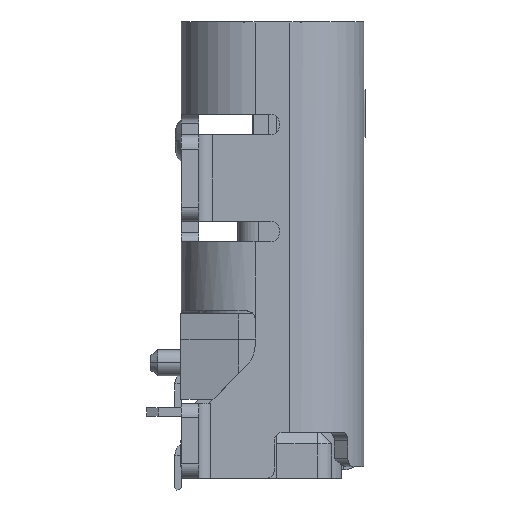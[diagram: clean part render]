
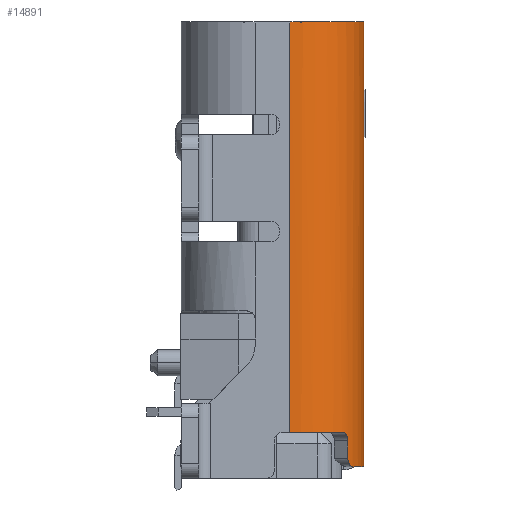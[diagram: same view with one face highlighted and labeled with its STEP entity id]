
A CAD part, left-side view. The second image highlights one B-rep face of the part: STEP entity #14891.
In plain terms, the highlighted cylindrical face has radius 1.28 mm (diameter 2.56 mm), a partial arc.
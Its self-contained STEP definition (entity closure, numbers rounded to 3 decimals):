
#473 = EDGE_CURVE ( 'NONE', #5729, #39151, #35286, .T. ) ;
#1864 = DIRECTION ( 'NONE',  ( 0., 0., 1. ) ) ;
#2338 = B_SPLINE_CURVE_WITH_KNOTS ( 'NONE', 3,
 ( #50679, #73452, #22294, #45088, #4377, #4019, #9627, #60796 ),
 .UNSPECIFIED., .F., .F.,
 ( 4, 1, 1, 1, 1, 4 ),
 ( 0., 0.2, 0.4, 0.6, 0.8, 1. ),
 .UNSPECIFIED. ) ;
#2487 = AXIS2_PLACEMENT_3D ( 'NONE', #4233, #33015, #10215 ) ;
#2724 = AXIS2_PLACEMENT_3D ( 'NONE', #68106, #4997, #62908 ) ;
#4019 = CARTESIAN_POINT ( 'NONE',  ( -4.06, -1.239, -2.005 ) ) ;
#4233 = CARTESIAN_POINT ( 'NONE',  ( -3.19, -0.3, -2.6 ) ) ;
#4245 = ORIENTED_EDGE ( 'NONE', *, *, #52091, .T. ) ;
#4376 = CARTESIAN_POINT ( 'NONE',  ( -3.19, -1.58, 5.1 ) ) ;
#4377 = CARTESIAN_POINT ( 'NONE',  ( -4.028, -1.267, -2.027 ) ) ;
#4997 = DIRECTION ( 'NONE',  ( 0., 0., 1. ) ) ;
#5729 = VERTEX_POINT ( 'NONE', #6262 ) ;
#6262 = CARTESIAN_POINT ( 'NONE',  ( -3.982, -1.306, -2.15 ) ) ;
#6611 = VERTEX_POINT ( 'NONE', #6618 ) ;
#6618 = CARTESIAN_POINT ( 'NONE',  ( -3.19, -1.58, -2.6 ) ) ;
#7014 = ORIENTED_EDGE ( 'NONE', *, *, #473, .T. ) ;
#8853 = CARTESIAN_POINT ( 'NONE',  ( -3.934, -1.342, -2.573 ) ) ;
#9627 = CARTESIAN_POINT ( 'NONE',  ( -4.083, -1.217, -2. ) ) ;
#10140 = EDGE_LOOP ( 'NONE', ( #20040, #49941, #4245, #39683, #64741, #7014, #55324, #32998 ) ) ;
#10142 = AXIS2_PLACEMENT_3D ( 'NONE', #20547, #60523, #38110 ) ;
#10215 = DIRECTION ( 'NONE',  ( 0., -1., 0. ) ) ;
#13601 = DIRECTION ( 'NONE',  ( 0., 0., -1. ) ) ;
#14891 = ADVANCED_FACE ( 'NONE', ( #62537 ), #39001, .T. ) ;
#17894 = CARTESIAN_POINT ( 'NONE',  ( -4.47, -0.3, 5.1 ) ) ;
#19319 = CARTESIAN_POINT ( 'NONE',  ( -3.982, -1.306, -2.466 ) ) ;
#20040 = ORIENTED_EDGE ( 'NONE', *, *, #62864, .T. ) ;
#20057 = CARTESIAN_POINT ( 'NONE',  ( -3.982, -1.306, -2.45 ) ) ;
#20166 = LINE ( 'NONE', #65730, #55757 ) ;
#20525 = EDGE_CURVE ( 'NONE', #6611, #37423, #34726, .T. ) ;
#20547 = CARTESIAN_POINT ( 'NONE',  ( -3.19, -0.3, 5.1 ) ) ;
#22294 = CARTESIAN_POINT ( 'NONE',  ( -3.986, -1.303, -2.103 ) ) ;
#22492 = CIRCLE ( 'NONE', #65498, 1.28 ) ;
#22690 = CARTESIAN_POINT ( 'NONE',  ( -3.858, -1.392, -2.6 ) ) ;
#32666 = VERTEX_POINT ( 'NONE', #53175 ) ;
#32998 = ORIENTED_EDGE ( 'NONE', *, *, #20525, .F. ) ;
#33015 = DIRECTION ( 'NONE',  ( 0., 0., -1. ) ) ;
#33150 = DIRECTION ( 'NONE',  ( 0., 0., -1. ) ) ;
#33934 = B_SPLINE_CURVE_WITH_KNOTS ( 'NONE', 3,
 ( #22690, #57818, #58546, #8853, #48067, #42495, #19319, #20057 ),
 .UNSPECIFIED., .F., .F.,
 ( 4, 1, 1, 1, 1, 4 ),
 ( 0., 0.2, 0.4, 0.6, 0.8, 1. ),
 .UNSPECIFIED. ) ;
#34726 = CIRCLE ( 'NONE', #2487, 1.28 ) ;
#35286 = LINE ( 'NONE', #41985, #57901 ) ;
#36004 = VERTEX_POINT ( 'NONE', #39511 ) ;
#36083 = EDGE_CURVE ( 'NONE', #37423, #39151, #33934, .T. ) ;
#37423 = VERTEX_POINT ( 'NONE', #48444 ) ;
#37477 = VECTOR ( 'NONE', #63874, 1000. ) ;
#38110 = DIRECTION ( 'NONE',  ( -1., 0., 0. ) ) ;
#39001 = CYLINDRICAL_SURFACE ( 'NONE', #2724, 1.28 ) ;
#39045 = EDGE_CURVE ( 'NONE', #5729, #32666, #2338, .T. ) ;
#39151 = VERTEX_POINT ( 'NONE', #45444 ) ;
#39511 = CARTESIAN_POINT ( 'NONE',  ( -4.47, -0.3, -2. ) ) ;
#39683 = ORIENTED_EDGE ( 'NONE', *, *, #64238, .F. ) ;
#41205 = CIRCLE ( 'NONE', #10142, 1.28 ) ;
#41985 = CARTESIAN_POINT ( 'NONE',  ( -3.982, -1.306, -2.15 ) ) ;
#42495 = CARTESIAN_POINT ( 'NONE',  ( -3.978, -1.309, -2.497 ) ) ;
#45088 = CARTESIAN_POINT ( 'NONE',  ( -4.003, -1.289, -2.06 ) ) ;
#45444 = CARTESIAN_POINT ( 'NONE',  ( -3.982, -1.306, -2.45 ) ) ;
#45465 = EDGE_CURVE ( 'NONE', #60902, #54529, #41205, .T. ) ;
#48067 = CARTESIAN_POINT ( 'NONE',  ( -3.961, -1.322, -2.54 ) ) ;
#48444 = CARTESIAN_POINT ( 'NONE',  ( -3.858, -1.392, -2.6 ) ) ;
#49941 = ORIENTED_EDGE ( 'NONE', *, *, #45465, .F. ) ;
#50679 = CARTESIAN_POINT ( 'NONE',  ( -3.982, -1.306, -2.15 ) ) ;
#52091 = EDGE_CURVE ( 'NONE', #60902, #36004, #69069, .T. ) ;
#53175 = CARTESIAN_POINT ( 'NONE',  ( -4.094, -1.206, -2. ) ) ;
#54457 = CARTESIAN_POINT ( 'NONE',  ( -3.19, -0.3, -2. ) ) ;
#54529 = VERTEX_POINT ( 'NONE', #4376 ) ;
#55032 = CARTESIAN_POINT ( 'NONE',  ( -4.47, -0.3, 5.1 ) ) ;
#55324 = ORIENTED_EDGE ( 'NONE', *, *, #36083, .F. ) ;
#55757 = VECTOR ( 'NONE', #1864, 1000. ) ;
#57818 = CARTESIAN_POINT ( 'NONE',  ( -3.872, -1.383, -2.6 ) ) ;
#57901 = VECTOR ( 'NONE', #13601, 1000. ) ;
#58546 = CARTESIAN_POINT ( 'NONE',  ( -3.898, -1.366, -2.595 ) ) ;
#60523 = DIRECTION ( 'NONE',  ( 0., 0., 1. ) ) ;
#60785 = DIRECTION ( 'NONE',  ( -0.706, -0.708, 0. ) ) ;
#60796 = CARTESIAN_POINT ( 'NONE',  ( -4.094, -1.206, -2. ) ) ;
#60902 = VERTEX_POINT ( 'NONE', #55032 ) ;
#62537 = FACE_OUTER_BOUND ( 'NONE', #10140, .T. ) ;
#62864 = EDGE_CURVE ( 'NONE', #6611, #54529, #20166, .T. ) ;
#62908 = DIRECTION ( 'NONE',  ( 1., 0., 0. ) ) ;
#63874 = DIRECTION ( 'NONE',  ( 0., 0., -1. ) ) ;
#64238 = EDGE_CURVE ( 'NONE', #32666, #36004, #22492, .T. ) ;
#64741 = ORIENTED_EDGE ( 'NONE', *, *, #39045, .F. ) ;
#65498 = AXIS2_PLACEMENT_3D ( 'NONE', #54457, #33150, #60785 ) ;
#65730 = CARTESIAN_POINT ( 'NONE',  ( -3.19, -1.58, -2.6 ) ) ;
#68106 = CARTESIAN_POINT ( 'NONE',  ( -3.19, -0.3, 5.1 ) ) ;
#69069 = LINE ( 'NONE', #17894, #37477 ) ;
#73452 = CARTESIAN_POINT ( 'NONE',  ( -3.982, -1.306, -2.134 ) ) ;
